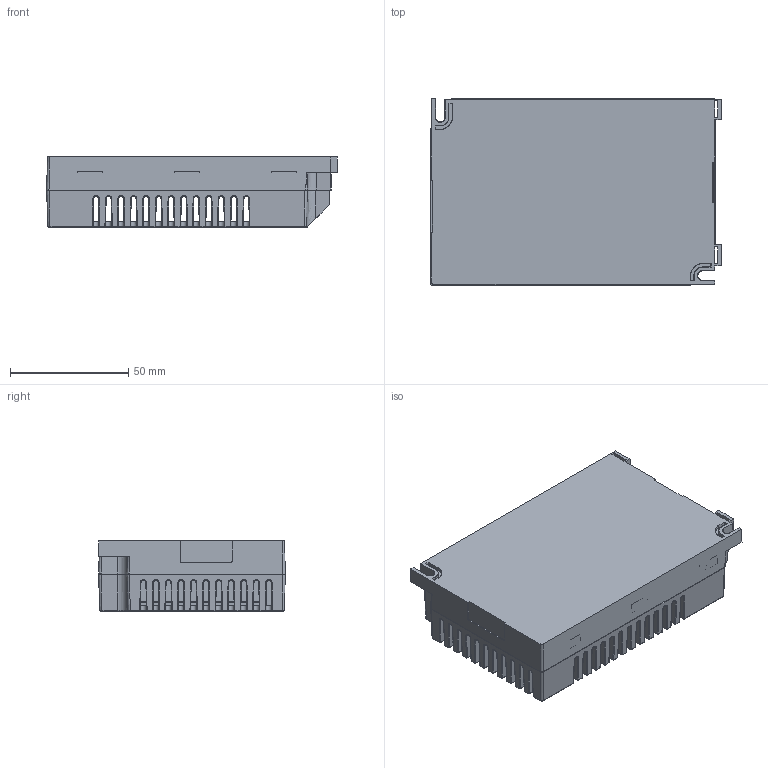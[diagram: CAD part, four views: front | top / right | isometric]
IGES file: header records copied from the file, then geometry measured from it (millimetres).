
Start section: SolidWorks IGES file using analytic representation for surfaces
Global section: file name: C:\Users\vuorinen_kari\Desktop\prj\LC35_DA_iC\LC35_DA_iC_.IGS; native system: SolidWorks 2014; preprocessor: SolidWorks 2014; author: Vuorinen_Kari; date: 170411.123145; units: millimetre
Bounding box: 123.06 x 79 x 29.65 mm (x, y, z)
Surface area: 84915.6 mm2 (no closed solid volume)
Topology: 0 solids, 0 shells, 1426 faces, 12070 edges, 11994 vertices
Faces by surface type: bspline 844, revolution 582
